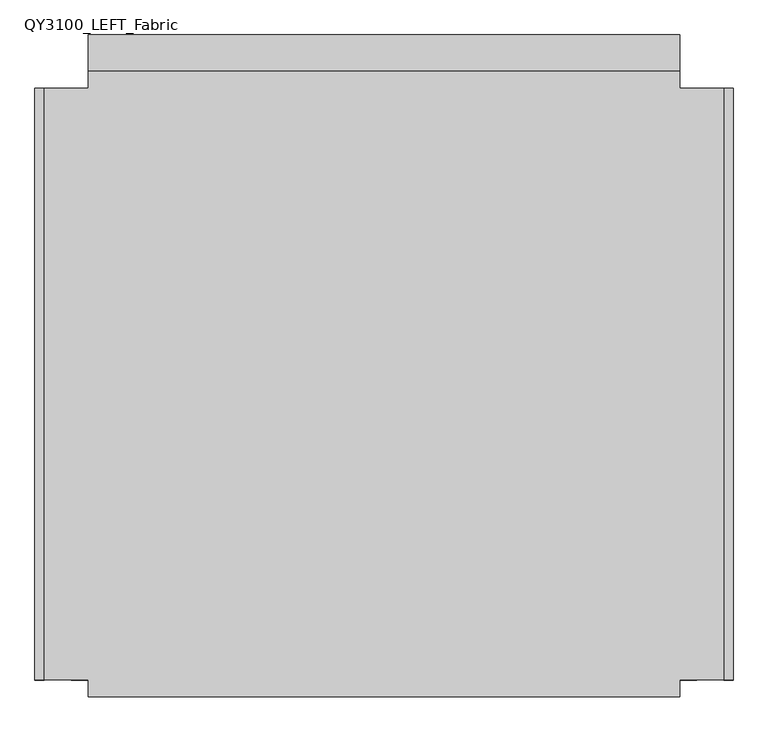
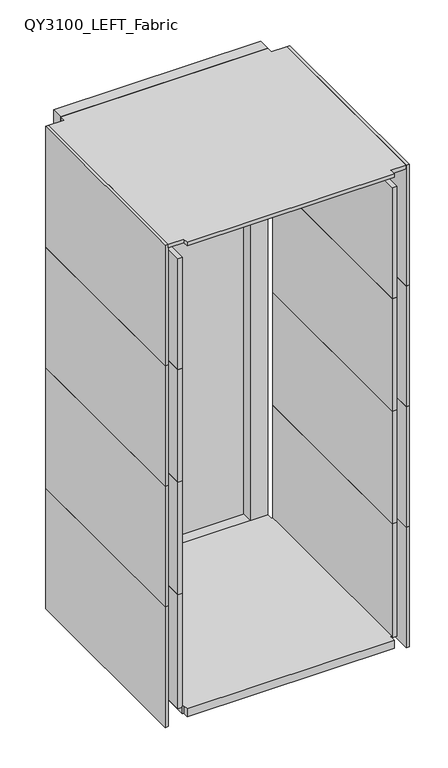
"""IFC4 building model written with IfcOpenShell, lengths in millimetres: furniture geometry, Qyos_100 : QY3100_LEFT_Fabric."""

from ifc_helpers import new_model, si_unit, point, frame, frame_2d, origin, origin_with_axes, place, context, project, spatial, polyline, circle_curve, ellipse_curve, trimmed, segment, composite_curve, outline, extrude, source, transform, mapped, element, save
from ifc_brep_helpers import plane_surface, revolved_surface, advanced_brep


def qy3100_left_fabric_1aad05fc(model_context):
    return source(origin(), model_context, "Body", "SolidModel", [
        advanced_brep(
        [(-389.0102872, 400.0, 7.0), (-366.9897128, 400.0, 7.0), (-378.0, 400.0, 7.0), (-390.853369, 400.0, 8.8430818), (-365.146631, 400.0, 8.8430818), (-393.1395917, 400.0, 37.8922955), (-362.8604083, 400.0, 37.8922955), (-397.5075531, 400.0, 42.2602568), (-358.4924469, 400.0, 42.2602568), (-378.0, 400.0, 42.2602568)],
        [
            (0, 1, circle_curve(frame((-378.0, 400.0, 7.0), z_axis=(0.0, 0.0, -1.0), x_axis=(1.0, 0.0, 0.0)), 11.0102872)),
            (1, 2),
            (2, 0),
            (1, 0, circle_curve(frame((-378.0, 400.0, 7.0), z_axis=(0.0, 0.0, -1.0), x_axis=(1.0, 0.0, 0.0)), 11.0102872)),
            (3, 4, circle_curve(frame((-378.0, 400.0, 8.8430818), z_axis=(0.0, 0.0, -1.0), x_axis=(1.0, 0.0, 0.0)), 12.853369)),
            (4, 1, circle_curve(frame((-366.9897128, 400.0, 8.8430818), z_axis=(0.0, 1.0, 0.0), x_axis=(1.0, 0.0, 0.0)), 1.8430818)),
            (0, 3, circle_curve(frame((-389.0102872, 400.0, 8.8430818), z_axis=(0.0, 1.0, 0.0), x_axis=(-1.0, 0.0, 0.0)), 1.8430818)),
            (4, 3, circle_curve(frame((-378.0, 400.0, 8.8430818), z_axis=(0.0, 0.0, -1.0), x_axis=(1.0, 0.0, 0.0)), 12.853369)),
            (5, 6, circle_curve(frame((-378.0, 400.0, 37.8922955), z_axis=(0.0, 0.0, -1.0), x_axis=(1.0, 0.0, 0.0)), 15.1395917)),
            (6, 4),
            (3, 5),
            (6, 5, circle_curve(frame((-378.0, 400.0, 37.8922955), z_axis=(0.0, 0.0, -1.0), x_axis=(1.0, 0.0, 0.0)), 15.1395917)),
            (7, 8, circle_curve(frame((-378.0, 400.0, 42.2602568), z_axis=(0.0, 0.0, -1.0), x_axis=(1.0, 0.0, 0.0)), 19.5075531)),
            (8, 6, circle_curve(frame((-358.4924469, 400.0, 37.8922955), z_axis=(0.0, -1.0, 0.0), x_axis=(1.0, 0.0, 0.0)), 4.3679613)),
            (5, 7, circle_curve(frame((-397.5075531, 400.0, 37.8922955), z_axis=(0.0, -1.0, 0.0), x_axis=(-1.0, 0.0, 0.0)), 4.3679613)),
            (8, 7, circle_curve(frame((-378.0, 400.0, 42.2602568), z_axis=(0.0, 0.0, -1.0), x_axis=(1.0, 0.0, 0.0)), 19.5075531)),
            (9, 8),
            (7, 9),
        ],
        [
            plane_surface(frame((-378.0, 400.0, 7.0), z_axis=(0.0, 0.0, -1.0), x_axis=(1.0, 0.0, 0.0))),
            revolved_surface(trimmed(ellipse_curve(frame((-366.9897128, 400.0, 8.8430818), z_axis=(0.0, -1.0, 0.0), x_axis=(1.0, 0.0, 0.0)), 1.8430818, 1.8430818), [point((-366.9897128, 400.0, 7.0))], [point((-365.146631, 400.0, 8.8430818))], True, "CARTESIAN"), (-378.0, 400.0, 1997.4144888), (0.0, 0.0, 1.0)),
            revolved_surface(polyline([(-365.146631, 400.0, 8.8430818), (-362.8604083, 400.0, 37.8922955)]), (-378.0, 400.0, 1997.4144888), (0.0, 0.0, 1.0)),
            revolved_surface(trimmed(ellipse_curve(frame((-358.4924469, 400.0, 37.8922955), z_axis=(0.0, 1.0, 0.0), x_axis=(1.0, 0.0, 0.0)), 4.3679613, 4.3679613), [point((-362.8604083, 400.0, 37.8922955))], [point((-358.4924469, 400.0, 42.2602568))], True, "CARTESIAN"), (-378.0, 400.0, 1997.4144888), (0.0, 0.0, 1.0)),
            plane_surface(frame((-378.0, 400.0, 42.2602568), z_axis=(0.0, 0.0, 1.0), x_axis=(1.0, 0.0, 0.0))),
        ],
        [
            (0, [[1, 2, 3]]),
            (0, [[4, -3, -2]]),
            (1, [[5, 6, -1, 7]]),
            (1, [[8, -7, -4, -6]]),
            (2, [[9, 10, -5, 11]]),
            (2, [[12, -11, -8, -10]]),
            (3, [[13, 14, -9, 15]]),
            (3, [[16, -15, -12, -14]]),
            (4, [[17, -13, 18]]),
            (4, [[-18, -16, -17]]),
        ],
    ),
        extrude(outline(composite_curve([segment(trimmed(circle_curve(frame_2d((-378.0, 400.0)), 23.1414644), [point((-401.1414644, 400.0))], [point((-354.8585356, 400.0))], False, "CARTESIAN"), True, "CONTINUOUS"), segment(trimmed(circle_curve(frame_2d((-378.0, 400.0)), 23.1414644), [point((-354.8585356, 400.0))], [point((-401.1414644, 400.0))], False, "CARTESIAN"), True, "CONTINUOUS")], self_intersect=False)), origin_with_axes(), (0.0, 0.0, 1.0), 7.0),
        extrude(outline(composite_curve([segment(trimmed(circle_curve(frame_2d((-336.5, 432.5)), 10.0), [point((-336.5, 442.5))], [point((-326.5, 432.5))], False, "CARTESIAN"), True, "CONTINUOUS"), segment(polyline([(-326.5, 432.5), (-326.5, 367.5)]), True, "CONTINUOUS"), segment(trimmed(circle_curve(frame_2d((-336.5, 367.5)), 10.0), [point((-326.5, 367.5))], [point((-336.5, 357.5))], False, "CARTESIAN"), True, "CONTINUOUS"), segment(polyline([(-336.5, 357.5), (-419.5, 357.5)]), True, "CONTINUOUS"), segment(trimmed(circle_curve(frame_2d((-419.5, 367.5)), 10.0), [point((-419.5, 357.5))], [point((-429.5, 367.5))], False, "CARTESIAN"), True, "CONTINUOUS"), segment(polyline([(-429.5, 367.5), (-429.5, 432.5)]), True, "CONTINUOUS"), segment(trimmed(circle_curve(frame_2d((-419.5, 432.5)), 10.0), [point((-429.5, 432.5))], [point((-419.5, 442.5))], False, "CARTESIAN"), True, "CONTINUOUS"), segment(polyline([(-419.5, 442.5), (-336.5, 442.5)]), True, "CONTINUOUS")], self_intersect=False)), frame((0.0, 0.0, 42.2602568), z_axis=(0.0, 0.0, 1.0), x_axis=(1.0, 0.0, 0.0)), (0.0, 0.0, 1.0), 4.7397432),
        extrude(outline(composite_curve([segment(trimmed(circle_curve(frame_2d((320.0, 17.6301284)), 17.6301284), [point((302.3698716, 17.6301284))], [point((337.6301284, 17.6301284))], False, "CARTESIAN"), True, "CONTINUOUS"), segment(trimmed(circle_curve(frame_2d((320.0, 17.6301284)), 17.6301284), [point((337.6301284, 17.6301284))], [point((302.3698716, 17.6301284))], False, "CARTESIAN"), True, "CONTINUOUS")], self_intersect=False)), frame((-418.4669948, 0.0, 0.0), z_axis=(1.0, 0.0, 0.0), x_axis=(0.0, 1.0, 0.0)), (0.0, 0.0, 1.0), 26.9339897),
        extrude(outline(composite_curve([segment(trimmed(circle_curve(frame_2d((-405.0, 320.0)), 20.0), [point((-425.0, 320.0))], [point((-385.0, 320.0))], False, "CARTESIAN"), True, "CONTINUOUS"), segment(trimmed(circle_curve(frame_2d((-405.0, 320.0)), 20.0), [point((-385.0, 320.0))], [point((-425.0, 320.0))], False, "CARTESIAN"), True, "CONTINUOUS")], self_intersect=False)), frame((0.0, 0.0, 35.2602568), z_axis=(0.0, 0.0, 1.0), x_axis=(1.0, 0.0, 0.0)), (0.0, 0.0, 1.0), 7.0),
        extrude(outline(polyline([(-435.0, 290.0), (-435.0, 350.0), (-375.0, 350.0), (-375.0, 290.0), (-435.0, 290.0)])), frame((0.0, 0.0, 42.2602568), z_axis=(0.0, 0.0, 1.0), x_axis=(1.0, 0.0, 0.0)), (0.0, 0.0, 1.0), 4.7397432),
        extrude(outline(polyline([(445.0, 470.0), (445.0, 445.0), (511.0, 445.0), (511.0, -445.0), (445.0, -445.0), (445.0, -469.9956819), (-445.0, -469.9956819), (-445.0, -445.0), (-511.0, -445.0), (-511.0, 445.0), (-445.0, 445.0), (-445.0, 470.0), (445.0, 470.0)])), frame((0.0, 0.0, 2186.1), z_axis=(0.0, 0.0, 1.0), x_axis=(1.0, 0.0, 0.0)), (0.0, 0.0, 1.0), 16.0),
        extrude(outline(polyline([(-525.0, -445.0), (-525.0, 445.0), (-511.0, 445.0), (-511.0, -445.0), (-525.0, -445.0)])), frame((0.0, 0.0, 1654.0116287), z_axis=(0.0, 0.0, 1.0), x_axis=(1.0, 0.0, 0.0)), (0.0, 0.0, 1.0), 548.0883713),
        extrude(outline(polyline([(525.0, -445.0), (511.0, -445.0), (511.0, 445.0), (525.0, 445.0), (525.0, -445.0)])), frame((0.0, 0.0, 1654.0116287), z_axis=(0.0, 0.0, 1.0), x_axis=(1.0, 0.0, 0.0)), (0.0, 0.0, 1.0), 548.0883713),
        extrude(outline(polyline([(-451.0, 445.0), (-445.0, 445.0), (-445.0, 470.0), (445.0, 470.0), (445.0, 445.0), (451.0, 445.0), (451.0, -445.0), (445.0, -445.0), (445.0, -469.9956819), (-445.0, -469.9956819), (-445.0, -445.0), (-451.0, -445.0), (-451.0, 445.0)])), frame((0.0, 0.0, 47.0), z_axis=(0.0, 0.0, 1.0), x_axis=(1.0, 0.0, 0.0)), (0.0, 0.0, 1.0), 35.0),
        extrude(outline(polyline([(369.5, 520.0), (-369.5, 520.0), (-369.5, 525.0), (369.5, 525.0), (369.5, 520.0)])), frame((0.0, 0.0, 82.0), z_axis=(0.0, 0.0, 1.0), x_axis=(1.0, 0.0, 0.0)), (0.0, 0.0, 1.0), 2040.1),
        extrude(outline(polyline([(10.0, -445.0), (10.0, 445.0), (2202.1, 445.0), (2202.1, -445.0), (10.0, -445.0)]), holes=[polyline([(82.0, 369.5), (82.0, -369.5), (2122.1, -369.5), (2122.1, 369.5), (82.0, 369.5)])]), frame((0.0, 470.0, 0.0), z_axis=(0.0, 1.0, 0.0), x_axis=(0.0, 0.0, 1.0)), (0.0, 0.0, 1.0), 55.0),
        extrude(outline(polyline([(470.0, -444.9498873), (451.0, -444.9498873), (451.0, 445.0024364), (470.0, 445.0024364), (470.0, -444.9498873)])), frame((0.0, 0.0, 1617.9823403), z_axis=(0.0, 0.0, 1.0), x_axis=(1.0, 0.0, 0.0)), (0.0, 0.0, 1.0), 504.1176597),
        extrude(outline(polyline([(-470.0, -445.0), (-470.0, 445.0), (-451.0, 445.0), (-451.0, -445.0), (-470.0, -445.0)])), frame((0.0, 0.0, 1617.9823403), z_axis=(0.0, 0.0, 1.0), x_axis=(1.0, 0.0, 0.0)), (0.0, 0.0, 1.0), 504.1176597),
        extrude(outline(polyline([(470.0, -445.0), (451.0, -445.0), (451.0, 445.0), (470.0, 445.0), (470.0, -445.0)])), frame((0.0, 0.0, 1106.0116287), z_axis=(0.0, 0.0, 1.0), x_axis=(1.0, 0.0, 0.0)), (0.0, 0.0, 1.0), 511.9707116),
        extrude(outline(polyline([(-470.0, -445.0), (-470.0, 445.0), (-451.0, 445.0), (-451.0, -445.0), (-470.0, -445.0)])), frame((0.0, 0.0, 1106.0116287), z_axis=(0.0, 0.0, 1.0), x_axis=(1.0, 0.0, 0.0)), (0.0, 0.0, 1.0), 511.9707116),
        extrude(outline(polyline([(470.0, -445.0), (451.0, -445.0), (451.0, 445.0), (470.0, 445.0), (470.0, -445.0)])), frame((0.0, 0.0, 593.9823403), z_axis=(0.0, 0.0, 1.0), x_axis=(1.0, 0.0, 0.0)), (0.0, 0.0, 1.0), 512.0292884),
        extrude(outline(polyline([(-470.0, -445.0), (-470.0, 445.0), (-451.0, 445.0), (-451.0, -445.0), (-470.0, -445.0)])), frame((0.0, 0.0, 593.9823403), z_axis=(0.0, 0.0, 1.0), x_axis=(1.0, 0.0, 0.0)), (0.0, 0.0, 1.0), 512.0292884),
        extrude(outline(polyline([(470.0, -445.0), (451.0, -445.0), (451.0, 445.0), (470.0, 445.0), (470.0, -445.0)])), frame((0.0, 0.0, 77.0), z_axis=(0.0, 0.0, 1.0), x_axis=(1.0, 0.0, 0.0)), (0.0, 0.0, 1.0), 516.9823403),
        extrude(outline(polyline([(-470.0, -445.0), (-470.0, 445.0), (-451.0, 445.0), (-451.0, -445.0), (-470.0, -445.0)])), frame((0.0, 0.0, 77.0), z_axis=(0.0, 0.0, 1.0), x_axis=(1.0, 0.0, 0.0)), (0.0, 0.0, 1.0), 516.9823403),
        extrude(outline(polyline([(-525.0, -445.0), (-525.0, 445.0), (-511.0, 445.0), (-511.0, -445.0), (-525.0, -445.0)])), frame((0.0, 0.0, 1106.0116287), z_axis=(0.0, 0.0, 1.0), x_axis=(1.0, 0.0, 0.0)), (0.0, 0.0, 1.0), 548.0),
        extrude(outline(polyline([(525.0, -445.0), (511.0, -445.0), (511.0, 445.0), (525.0, 445.0), (525.0, -445.0)])), frame((0.0, 0.0, 1106.0116287), z_axis=(0.0, 0.0, 1.0), x_axis=(1.0, 0.0, 0.0)), (0.0, 0.0, 1.0), 548.0),
        extrude(outline(polyline([(-525.0, -445.0), (-525.0, 445.0), (-511.0, 445.0), (-511.0, -445.0), (-525.0, -445.0)])), frame((0.0, 0.0, 558.0116287), z_axis=(0.0, 0.0, 1.0), x_axis=(1.0, 0.0, 0.0)), (0.0, 0.0, 1.0), 548.0),
        extrude(outline(polyline([(525.0, -445.0), (511.0, -445.0), (511.0, 445.0), (525.0, 445.0), (525.0, -445.0)])), frame((0.0, 0.0, 558.0116287), z_axis=(0.0, 0.0, 1.0), x_axis=(1.0, 0.0, 0.0)), (0.0, 0.0, 1.0), 548.0),
        extrude(outline(polyline([(-525.0, -445.0), (-525.0, 445.0), (-511.0, 445.0), (-511.0, -445.0), (-525.0, -445.0)])), frame((0.0, 0.0, 10.0), z_axis=(0.0, 0.0, 1.0), x_axis=(1.0, 0.0, 0.0)), (0.0, 0.0, 1.0), 548.0116287),
        extrude(outline(polyline([(525.0, -445.0), (511.0, -445.0), (511.0, 445.0), (525.0, 445.0), (525.0, -445.0)])), frame((0.0, 0.0, 10.0), z_axis=(0.0, 0.0, 1.0), x_axis=(1.0, 0.0, 0.0)), (0.0, 0.0, 1.0), 548.0116287),
    ])


if __name__ == "__main__":
    model = new_model("IFC4")
    model_context = context("Model", 3, world=origin())
    ifc_project = project(units=[si_unit("LENGTHUNIT", "METRE", prefix="MILLI")], contexts=[model_context])
    site = spatial("IfcSite", under=ifc_project)
    building = spatial("IfcBuilding", under=site)
    placement = place(None, origin())
    qy3100_left_fabric_shape = qy3100_left_fabric_1aad05fc(model_context)
    element("IfcFurniture", 1, ObjectType="Qyos_100 : QY3100_LEFT_Fabric", at=placement, inside=building, context=model_context, shape_type="MappedRepresentation", body=[
        mapped(qy3100_left_fabric_shape, transform((0.0, 0.0, 0.0), x_axis=(1.0, 0.0, 0.0), y_axis=(0.0, 1.0, 0.0), z_axis=(0.0, 0.0, 1.0))),
    ])
    save(model, "model.ifc")
